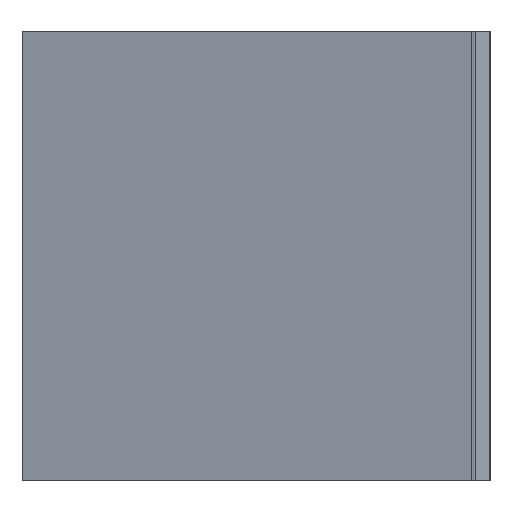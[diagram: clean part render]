
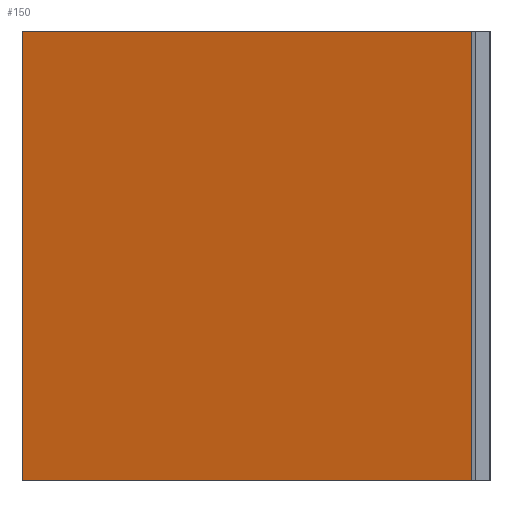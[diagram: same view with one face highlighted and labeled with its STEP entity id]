
A CAD part, left-side view. The second image highlights one B-rep face of the part: STEP entity #150.
In plain terms, the highlighted planar face has unit normal (0.963, -0.27, 0).
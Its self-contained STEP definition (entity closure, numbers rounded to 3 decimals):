
#98=CARTESIAN_POINT('Vertex',(20.,0.,0.)) ;
#101=CARTESIAN_POINT('Line Origine',(20.,0.,62.5)) ;
#105=CARTESIAN_POINT('Vertex',(20.,0.,125.)) ;
#120=CARTESIAN_POINT('Axis2P3D Location',(20.,0.,0.)) ;
#125=CARTESIAN_POINT('Line Origine',(37.5,62.5,0.)) ;
#129=CARTESIAN_POINT('Vertex',(55.,125.,0.)) ;
#132=CARTESIAN_POINT('Line Origine',(55.,125.,62.5)) ;
#136=CARTESIAN_POINT('Vertex',(55.,125.,125.)) ;
#139=CARTESIAN_POINT('Line Origine',(37.5,62.5,125.)) ;
#102=DIRECTION('Vector Direction',(0.,0.,1.)) ;
#121=DIRECTION('Axis2P3D Direction',(0.963,-0.27,0.)) ;
#122=DIRECTION('Axis2P3D XDirection',(0.27,0.963,0.)) ;
#126=DIRECTION('Vector Direction',(0.27,0.963,0.)) ;
#133=DIRECTION('Vector Direction',(0.,0.,1.)) ;
#140=DIRECTION('Vector Direction',(0.27,0.963,0.)) ;
#123=AXIS2_PLACEMENT_3D('Plane Axis2P3D',#120,#121,#122) ;
#145=ORIENTED_EDGE('',*,*,#107,.F.) ;
#146=ORIENTED_EDGE('',*,*,#131,.T.) ;
#147=ORIENTED_EDGE('',*,*,#138,.T.) ;
#148=ORIENTED_EDGE('',*,*,#143,.F.) ;
#103=VECTOR('Line Direction',#102,1.) ;
#127=VECTOR('Line Direction',#126,1.) ;
#134=VECTOR('Line Direction',#133,1.) ;
#141=VECTOR('Line Direction',#140,1.) ;
#150=ADVANCED_FACE('Extrude.1',(#149),#124,.T.) ;
#107=EDGE_CURVE('',#99,#106,#104,.T.) ;
#131=EDGE_CURVE('',#99,#130,#128,.T.) ;
#138=EDGE_CURVE('',#130,#137,#135,.T.) ;
#143=EDGE_CURVE('',#106,#137,#142,.T.) ;
#144=EDGE_LOOP('',(#145,#146,#147,#148)) ;
#149=FACE_OUTER_BOUND('',#144,.T.) ;
#104=LINE('Line',#101,#103) ;
#128=LINE('Line',#125,#127) ;
#135=LINE('Line',#132,#134) ;
#142=LINE('Line',#139,#141) ;
#124=PLANE('',#123) ;
#99=VERTEX_POINT('',#98) ;
#106=VERTEX_POINT('',#105) ;
#130=VERTEX_POINT('',#129) ;
#137=VERTEX_POINT('',#136) ;
